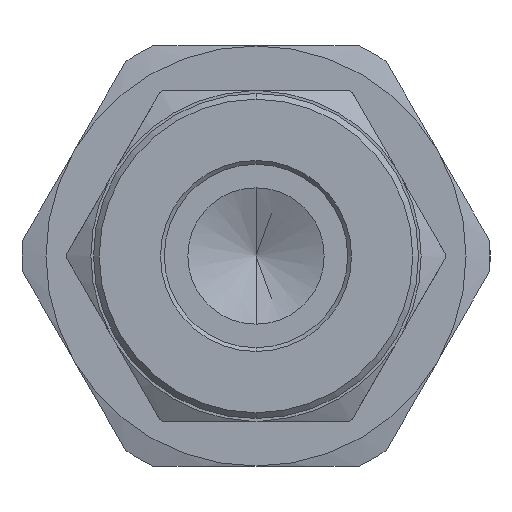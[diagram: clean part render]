
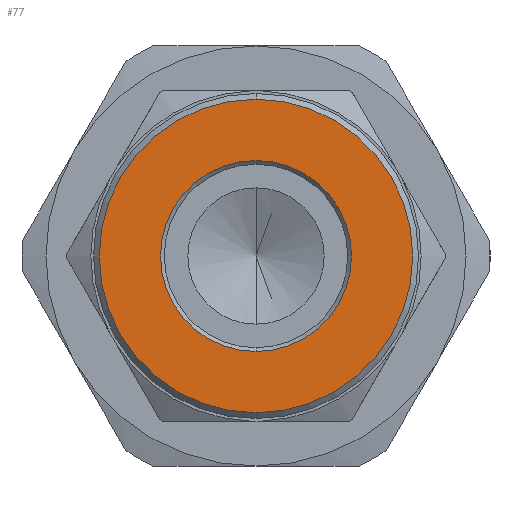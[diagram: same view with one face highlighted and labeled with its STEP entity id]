
A CAD part, left-side view. The second image highlights one B-rep face of the part: STEP entity #77.
In plain terms, the highlighted planar face has unit normal (-1, 0, 0).
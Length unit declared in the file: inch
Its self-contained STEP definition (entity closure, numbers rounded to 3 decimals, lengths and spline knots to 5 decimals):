
#77 = ADVANCED_FACE ( 'NONE', ( #13412, #13415 ), #13416, .F. ) ;
#427 = EDGE_CURVE ( 'NONE', #11618, #11567, #14772, .T. ) ;
#636 = EDGE_CURVE ( 'NONE', #11640, #11638, #2027, .T. ) ;
#662 = CIRCLE ( 'NONE', #668, 0.3265 ) ;
#668 = AXIS2_PLACEMENT_3D ( 'NONE', #7385, #7386, #7387 ) ;
#737 = CIRCLE ( 'NONE', #740, 0.199 ) ;
#740 = AXIS2_PLACEMENT_3D ( 'NONE', #7643, #7644, #7645 ) ;
#2027 = CIRCLE ( 'NONE', #2030, 0.199 ) ;
#2030 = AXIS2_PLACEMENT_3D ( 'NONE', #3543, #3544, #3545 ) ;
#2154 = AXIS2_PLACEMENT_3D ( 'NONE', #13408, #13417, #13418 ) ;
#3543 = CARTESIAN_POINT ( 'NONE',  ( -0.2255, 0., 0. ) ) ;
#3544 = DIRECTION ( 'NONE',  ( 1., 0., 0. ) ) ;
#3545 = DIRECTION ( 'NONE',  ( 0., 0., -1. ) ) ;
#7385 = CARTESIAN_POINT ( 'NONE',  ( -0.2255, 0., 0. ) ) ;
#7386 = DIRECTION ( 'NONE',  ( -1., 0., 0. ) ) ;
#7387 = DIRECTION ( 'NONE',  ( 0., 0., -1. ) ) ;
#7643 = CARTESIAN_POINT ( 'NONE',  ( -0.2255, 0., 0. ) ) ;
#7644 = DIRECTION ( 'NONE',  ( 1., 0., 0. ) ) ;
#7645 = DIRECTION ( 'NONE',  ( 0., 0., -1. ) ) ;
#7971 = CARTESIAN_POINT ( 'NONE',  ( -0.2255, 0., -0.3265 ) ) ;
#8019 = CARTESIAN_POINT ( 'NONE',  ( -0.2255, 0., 0.3265 ) ) ;
#8039 = CARTESIAN_POINT ( 'NONE',  ( -0.2255, 0., -0.199 ) ) ;
#8041 = CARTESIAN_POINT ( 'NONE',  ( -0.2255, 0., 0.199 ) ) ;
#8606 = EDGE_CURVE ( 'NONE', #11567, #11618, #662, .T. ) ;
#8766 = EDGE_CURVE ( 'NONE', #11638, #11640, #737, .T. ) ;
#9878 = CARTESIAN_POINT ( 'NONE',  ( -0.2255, 0., 0. ) ) ;
#9879 = DIRECTION ( 'NONE',  ( -1., 0., 0. ) ) ;
#9880 = DIRECTION ( 'NONE',  ( 0., 0., -1. ) ) ;
#11567 = VERTEX_POINT ( 'NONE', #7971 ) ;
#11618 = VERTEX_POINT ( 'NONE', #8019 ) ;
#11638 = VERTEX_POINT ( 'NONE', #8039 ) ;
#11640 = VERTEX_POINT ( 'NONE', #8041 ) ;
#12386 = EDGE_LOOP ( 'NONE', ( #13296, #13297 ) ) ;
#12675 = EDGE_LOOP ( 'NONE', ( #13294, #13295 ) ) ;
#13294 = ORIENTED_EDGE ( 'NONE', *, *, #636, .T. ) ;
#13295 = ORIENTED_EDGE ( 'NONE', *, *, #8766, .T. ) ;
#13296 = ORIENTED_EDGE ( 'NONE', *, *, #8606, .T. ) ;
#13297 = ORIENTED_EDGE ( 'NONE', *, *, #427, .T. ) ;
#13408 = CARTESIAN_POINT ( 'NONE',  ( -0.2255, 0.39693, 0. ) ) ;
#13412 = FACE_BOUND ( 'NONE', #12675, .T. ) ;
#13415 = FACE_OUTER_BOUND ( 'NONE', #12386, .T. ) ;
#13416 = PLANE ( 'NONE',  #2154 ) ;
#13417 = DIRECTION ( 'NONE',  ( 1., 0., 0. ) ) ;
#13418 = DIRECTION ( 'NONE',  ( 0., 0., -1. ) ) ;
#14772 = CIRCLE ( 'NONE', #14789, 0.3265 ) ;
#14789 = AXIS2_PLACEMENT_3D ( 'NONE', #9878, #9879, #9880 ) ;
